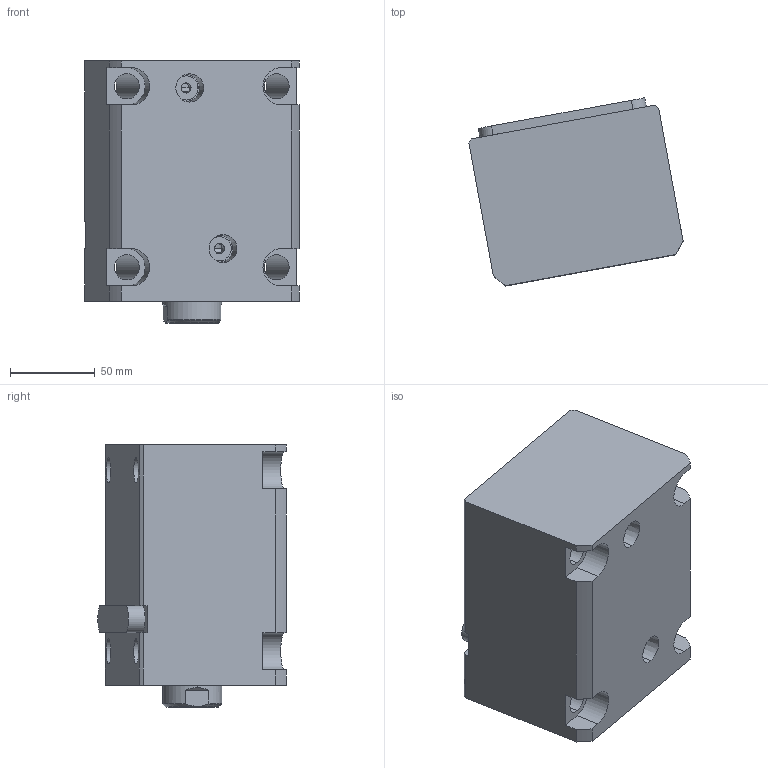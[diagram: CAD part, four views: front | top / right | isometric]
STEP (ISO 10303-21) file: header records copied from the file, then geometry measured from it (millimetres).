
FILE_DESCRIPTION (( 'STEP AP214' ), '1' );
FILE_NAME ('chtb-la63x75_asm.STEP', '2018-05-02T03:48:35', ( 'Windows' ), ( 'Microsoft' ), 'SwSTEP 2.0', 'SolidWorks 2015', '' );
FILE_SCHEMA (( 'AUTOMOTIVE_DESIGN' ));
Length unit declared in the file: millimetre
Products named in the file (5): CHTB-LA63X75NBT; CHTB-LA63PJ; CHTB63X75NHSG; CHTB-63QG; chtb-la63x75_asm
Assembly tree (4 placements, depth 2):
  chtb-la63x75_asm
    CHTB-63QG
    CHTB63X75NHSG
    CHTB-LA63PJ
    CHTB-LA63X75NBT
Bounding box: 126.48 x 111.21 x 155 mm (x, y, z)
Volume: 1200497.6 mm3; surface area: 169787.6 mm2
Topology: 4 solids, 4 shells, 174 faces, 510 edges, 348 vertices
Faces by surface type: cylinder 98, plane 45, bspline 12, cone 12, torus 7
Entity records: 18199 total; most frequent: CARTESIAN_POINT 13678, ORIENTED_EDGE 1008, DIRECTION 778, EDGE_CURVE 504, VERTEX_POINT 348, AXIS2_PLACEMENT_3D 295, EDGE_LOOP 198, VECTOR 188
